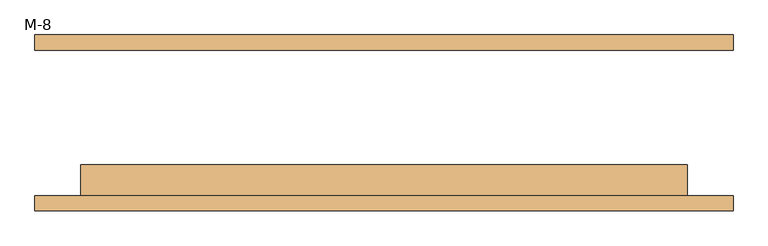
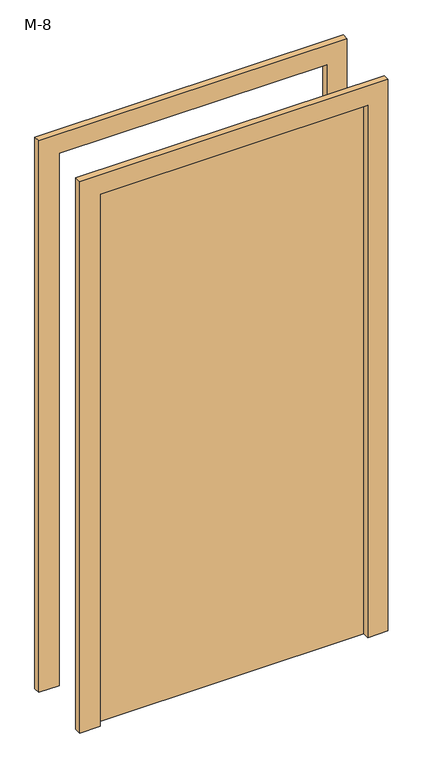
"""IFC4 building model written with IfcOpenShell, lengths in millimetres: door geometry, 单扇 - 与墙齐 : M-8."""

from ifc_helpers import new_model, si_unit, frame, origin, origin_with_axes, place, context, project, spatial, polyline, outline, extrude, source, transform, mapped, element, save


def m_8_e44f04d8(model_context):
    return source(origin(), model_context, "Body", "SweptSolid", [
        extrude(outline(polyline([(2176.0, -576.0), (0.0, -576.0), (0.0, -500.0), (2100.0, -500.0), (2100.0, 500.0), (0.0, 500.0), (0.0, 576.0), (2176.0, 576.0), (2176.0, -576.0)])), frame((0.0, -145.0, 0.0), z_axis=(0.0, 1.0, 0.0), x_axis=(0.0, 0.0, 1.0)), (0.0, 0.0, 1.0), 25.0),
        extrude(outline(polyline([(2176.0, 576.0), (2176.0, -576.0), (0.0, -576.0), (0.0, -500.0), (2100.0, -500.0), (2100.0, 500.0), (0.0, 500.0), (0.0, 576.0), (2176.0, 576.0)])), frame((0.0, 120.0, 0.0), z_axis=(0.0, 1.0, 0.0), x_axis=(0.0, 0.0, 1.0)), (0.0, 0.0, 1.0), 25.0),
        extrude(outline(polyline([(500.0, -69.0), (500.0, -120.0), (-500.0, -120.0), (-500.0, -69.0), (500.0, -69.0)])), origin_with_axes(), (0.0, 0.0, 1.0), 2100.0),
    ])


if __name__ == "__main__":
    model = new_model("IFC4")
    model_context = context("Model", 3, world=origin())
    ifc_project = project(units=[si_unit("LENGTHUNIT", "METRE", prefix="MILLI")], contexts=[model_context])
    site = spatial("IfcSite", under=ifc_project)
    building = spatial("IfcBuilding", under=site)
    placement = place(None, origin())
    m_8_shape = m_8_e44f04d8(model_context)
    element("IfcDoor", 1, ObjectType="单扇 - 与墙齐 : M-8", at=placement, inside=building, context=model_context, shape_type="MappedRepresentation", body=[
        mapped(m_8_shape, transform((0.0, 0.0, 0.0), x_axis=(1.0, 0.0, 0.0), y_axis=(0.0, 1.0, 0.0), z_axis=(0.0, 0.0, 1.0))),
    ])
    save(model, "model.ifc")
